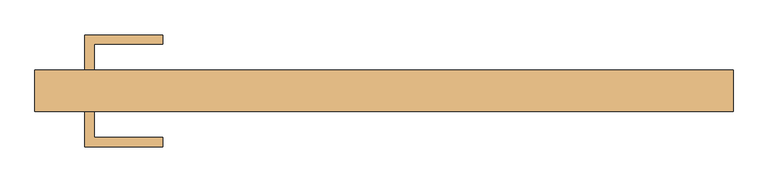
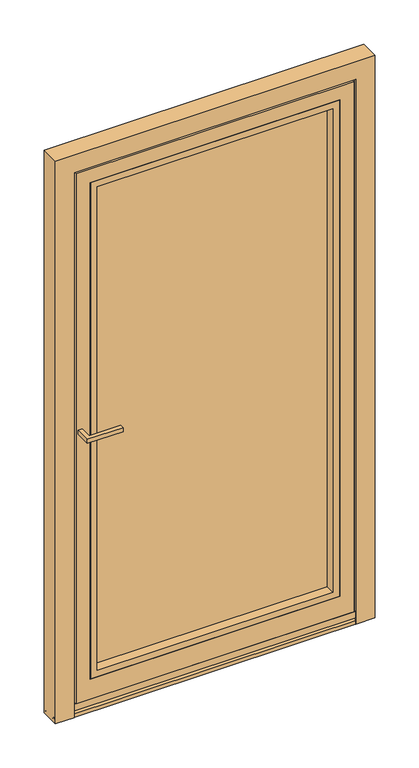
"""IFC4 building model written with IfcOpenShell, lengths in millimetres: door geometry, Reynaers_CS 77_Door_Plinth_Outward Opening_Single Vent : Reynaers_CS 77_Door_Plinth_Outward Opening_Single Vent."""

import ifcopenshell
import ifcopenshell.guid

model = None  # the IFC model being written
_history = None  # IfcOwnerHistory: only IFC2X3 demands one
_inside = {}  # id of a spatial element -> (the spatial element, [elements in it])
_under = {}  # id of a project, library or spatial element -> (it, [spatial elements below it])
_declared = {}  # id of a project -> (the project, [libraries it declares])
_typed = {}  # id of a type object -> (the type object, [elements of that type])
_made_of = {}  # id of a material, layer set ... -> (it, [elements and type objects made of it])


def new_model(schema):
    """Start an empty IFC model of exactly this schema.

    Asked for "IFC4X3", IfcOpenShell would pick the latest addendum, in which some entities
    have other attributes; the version numbers below select the first issue.
    IFC2X3 requires an IfcOwnerHistory on every rooted entity: one is made here for all.
    """
    global model, _history
    if schema == "IFC4X3":
        model = ifcopenshell.file(schema_version=(4, 3, 0, 0))
    else:
        model = ifcopenshell.file(schema=schema)
    _inside.clear()
    _under.clear()
    _declared.clear()
    _typed.clear()
    _made_of.clear()
    _history = None
    if model.schema == "IFC2X3":
        org = make("IfcOrganization", Name="unknown")
        user = make(
            "IfcPersonAndOrganization",
            ThePerson=make("IfcPerson", FamilyName="unknown"),
            TheOrganization=org,
        )
        app = make(
            "IfcApplication",
            ApplicationDeveloper=org,
            Version="unknown",
            ApplicationFullName="unknown",
            ApplicationIdentifier="unknown",
        )
        _history = make(
            "IfcOwnerHistory",
            OwningUser=user,
            OwningApplication=app,
            ChangeAction="ADDED",
            CreationDate=0,
        )
    return model


def make(cls, **values):
    """One entity of the class cls with the attributes given. An attribute that is None is left unset."""
    return model.create_entity(
        cls, **{name: value for name, value in values.items() if value is not None}
    )


def rooted(cls, **values):
    """An entity with a GlobalId (a new one), such as an element, a storey or a relation."""
    return make(cls, GlobalId=ifcopenshell.guid.new(), OwnerHistory=_history, **values)


def si_unit(unit_type, name, prefix=None):
    """IfcSIUnit, for example si_unit("LENGTHUNIT", "METRE", prefix="MILLI")."""
    return make("IfcSIUnit", UnitType=unit_type, Prefix=prefix, Name=name)


def assignment(units):
    """IfcUnitAssignment: the units of a project."""
    return None if units is None else make("IfcUnitAssignment", Units=units)


def point(xyz):
    """IfcCartesianPoint."""
    return None if xyz is None else make("IfcCartesianPoint", Coordinates=xyz)


def direction(xyz):
    """IfcDirection."""
    return None if xyz is None else make("IfcDirection", DirectionRatios=xyz)


def frame(location, z_axis=None, x_axis=None):
    """IfcAxis2Placement3D, a coordinate frame: its origin and axes. An axis left out is left unset."""
    return make(
        "IfcAxis2Placement3D",
        Location=point(location),
        Axis=direction(z_axis),
        RefDirection=direction(x_axis),
    )


def origin():
    """The frame at (0, 0, 0) with its axes left unset."""
    return frame((0.0, 0.0, 0.0))


def place(relative_to, where):
    """IfcLocalPlacement: puts the frame where relative to a parent placement (None: the world)."""
    return make(
        "IfcLocalPlacement", PlacementRelTo=relative_to, RelativePlacement=where
    )


def context(
    kind, dimensions, precision=None, world=None, true_north=None, identifier=None
):
    """IfcGeometricRepresentationContext, for example the 3D "Model" context."""
    return make(
        "IfcGeometricRepresentationContext",
        ContextIdentifier=identifier,
        ContextType=kind,
        CoordinateSpaceDimension=dimensions,
        Precision=precision,
        WorldCoordinateSystem=world,
        TrueNorth=true_north,
    )


def project(units=None, contexts=None):
    """IfcProject with its units and contexts."""
    return rooted(
        "IfcProject",
        Name="project",
        RepresentationContexts=contexts,
        UnitsInContext=assignment(units),
    )


def spatial(cls, under=None, at=None, **own):
    """A site, building, storey or space (cls), placed at a placement, below another one or the project."""
    s = rooted(cls, ObjectPlacement=at, **own)
    if under is not None:
        _under.setdefault(under.id(), (under, []))[1].append(s)
    return s


def polyline(points):
    """IfcPolyline through the points."""
    return make("IfcPolyline", Points=[point(p) for p in points])


def outline(outer, holes=None, kind="AREA"):
    """IfcArbitraryClosedProfileDef: a profile drawn as a closed curve; with holes, ...WithVoids."""
    if holes is None:
        return make("IfcArbitraryClosedProfileDef", ProfileType=kind, OuterCurve=outer)
    return make(
        "IfcArbitraryProfileDefWithVoids",
        ProfileType=kind,
        OuterCurve=outer,
        InnerCurves=holes,
    )


def extrude(swept, where, along, depth):
    """IfcExtrudedAreaSolid: the profile swept, set in the frame where, extruded along a direction by depth."""
    return make(
        "IfcExtrudedAreaSolid",
        SweptArea=swept,
        Position=where,
        ExtrudedDirection=direction(along),
        Depth=depth,
    )


def faces_of(points, faces, orient=None, outer=None):
    """IfcFace entities. A face is a list of loops; a loop is a list of indices into points, from 0.

    orient and outer hold one flag for each loop. By default every Orientation is true, the
    first loop of a face is its IfcFaceOuterBound and the others are IfcFaceBound.
    """
    made = []
    for i, loops in enumerate(faces):
        bounds = []
        for j, loop in enumerate(loops):
            is_outer = j == 0 if outer is None else outer[i][j]
            bounds.append(
                make(
                    "IfcFaceOuterBound" if is_outer else "IfcFaceBound",
                    Bound=make("IfcPolyLoop", Polygon=[points[k] for k in loop]),
                    Orientation=True if orient is None else orient[i][j],
                )
            )
        made.append(make("IfcFace", Bounds=bounds))
    return made


def faceted_brep(points, faces, orient=None, outer=None, voids=None):
    """IfcFacetedBrep: a solid bounded by flat faces; with voids (closed shells), ...WithVoids."""
    shared = [point(p) for p in points]
    hull = make("IfcClosedShell", CfsFaces=faces_of(shared, faces, orient, outer))
    if voids is None:
        return make("IfcFacetedBrep", Outer=hull)
    return make(
        "IfcFacetedBrepWithVoids",
        Outer=hull,
        Voids=[
            make(cls, CfsFaces=faces_of(shared, fs, o, b)) for cls, fs, o, b in voids
        ],
    )


def shape(context_of_items, identifier, shape_type, items):
    """IfcShapeRepresentation: the items that make up one representation, for example the "Body"."""
    return make(
        "IfcShapeRepresentation",
        ContextOfItems=context_of_items,
        RepresentationIdentifier=identifier,
        RepresentationType=shape_type,
        Items=items,
    )


def source(mapping_origin, context_of_items, identifier, shape_type, items):
    """IfcRepresentationMap: a shape defined once, which mapped items show again and again."""
    return make(
        "IfcRepresentationMap",
        MappingOrigin=mapping_origin,
        MappedRepresentation=shape(context_of_items, identifier, shape_type, items),
    )


def transform(
    local_origin,
    x_axis=None,
    y_axis=None,
    z_axis=None,
    scale=None,
    scale2=None,
    scale3=None,
    uniform=True,
):
    """IfcCartesianTransformationOperator3D, or its non-uniform kind. x_axis, y_axis, z_axis: its Axis1, 2, 3."""
    if uniform:
        return make(
            "IfcCartesianTransformationOperator3D",
            Axis1=direction(x_axis),
            Axis2=direction(y_axis),
            LocalOrigin=point(local_origin),
            Scale=scale,
            Axis3=direction(z_axis),
        )
    return make(
        "IfcCartesianTransformationOperator3DnonUniform",
        Axis1=direction(x_axis),
        Axis2=direction(y_axis),
        LocalOrigin=point(local_origin),
        Scale=scale,
        Axis3=direction(z_axis),
        Scale2=scale2,
        Scale3=scale3,
    )


def mapped(mapping_source, mapping_target):
    """IfcMappedItem: shows the shape of a source again, moved by a transform."""
    return make(
        "IfcMappedItem", MappingSource=mapping_source, MappingTarget=mapping_target
    )


def made_of(thing, what):
    """Note that an element or type object is made of a material, layer set ...; save() writes the relation."""
    if what is not None:
        _made_of.setdefault(what.id(), (what, []))[1].append(thing)
    return thing


def element(
    cls,
    number,
    at=None,
    inside=None,
    cuts=None,
    type_object=None,
    material=None,
    context=None,
    identifier="Body",
    shape_type=None,
    held_by="IfcProductDefinitionShape",
    body=None,
    shapes=None,
    **own,
):
    """One element of the class cls, such as IfcWall. Its Tag is "e" and its number.

    at: its placement. inside: the storey or other place that contains it. cuts: it is an
    opening in that element (IfcRelVoidsElement). A single representation is given by context,
    identifier, shape_type and body (its items); several are given by shapes. held_by: the class
    of the entity that holds the representations. save() writes the other relations.
    """
    e = rooted(cls, Tag="e%d" % number, ObjectPlacement=at, **own)
    if body is not None:
        shapes = [shape(context, identifier, shape_type, body)]
    if shapes is not None:
        e.Representation = make(held_by, Representations=shapes)
    if inside is not None:
        _inside.setdefault(inside.id(), (inside, []))[1].append(e)
    if cuts is not None:
        rooted(
            "IfcRelVoidsElement", RelatingBuildingElement=cuts, RelatedOpeningElement=e
        )
    if type_object is not None:
        _typed.setdefault(type_object.id(), (type_object, []))[1].append(e)
    return made_of(e, material)


def aggregate(whole, parts):
    """IfcRelAggregates: a whole, such as a stair, and the parts it consists of."""
    return rooted("IfcRelAggregates", RelatingObject=whole, RelatedObjects=parts)


def save(model, path):
    """Write the relations noted so far, then the file.

    IfcRelAggregates (storeys below a building ...), IfcRelContainedInSpatialStructure (elements
    in a storey), IfcRelDefinesByType, IfcRelAssociatesMaterial and IfcRelDeclares: one each for
    every whole, place, type object, material and project.
    """
    for whole, parts in _under.values():
        aggregate(whole, parts)
    for where, things in _inside.values():
        rooted(
            "IfcRelContainedInSpatialStructure",
            RelatedElements=things,
            RelatingStructure=where,
        )
    for kind, things in _typed.values():
        rooted("IfcRelDefinesByType", RelatedObjects=things, RelatingType=kind)
    for what, things in _made_of.values():
        rooted("IfcRelAssociatesMaterial", RelatedObjects=things, RelatingMaterial=what)
    for by, libraries in _declared.values():
        rooted("IfcRelDeclares", RelatingContext=by, RelatedDefinitions=libraries)
    model.write(path)


def door_9cbeffaa(model_context):
    return source(origin(), model_context, "Body", "SolidModel", [
        extrude(outline(polyline([(-488.5, 80.0), (-488.5, 137.5), (-361.0, 137.5), (-361.0, 122.5), (-473.5, 122.5), (-473.5, 80.0), (-488.5, 80.0)])), frame((0.0, 0.0, 1062.5), z_axis=(0.0, 0.0, 1.0), x_axis=(1.0, 0.0, 0.0)), (0.0, 0.0, 1.0), 15.0),
        extrude(outline(polyline([(-488.5, 12.0), (-473.5, 12.0), (-473.5, -30.5), (-361.0, -30.5), (-361.0, -45.5), (-488.5, -45.5), (-488.5, 12.0)])), frame((0.0, 0.0, 1062.5), z_axis=(0.0, 0.0, 1.0), x_axis=(1.0, 0.0, 0.0)), (0.0, 0.0, 1.0), 15.0),
        faceted_brep([(496.0, 12.0, 49.5), (496.0, 12.0, 2046.0), (-496.0, 12.0, 2046.0), (-496.0, 12.0, 49.5), (-445.0, 12.0, 1995.0), (445.0, 12.0, 1995.0), (445.0, 12.0, 124.5), (-445.0, 12.0, 124.5), (445.0, 72.0, 124.5), (-445.0, 72.0, 124.5), (445.0, 72.0, 1995.0), (-445.0, 72.0, 1995.0), (420.0, 72.0, 1970.0), (420.0, 72.0, 149.5), (-420.0, 72.0, 149.5), (-420.0, 72.0, 1970.0), (420.0, 80.0, 149.5), (-420.0, 80.0, 149.5), (-522.0, 80.0, 2072.0), (522.0, 80.0, 2072.0), (522.0, 80.0, 10.5), (-522.0, 80.0, 10.5), (-420.0, 80.0, 1970.0), (420.0, 80.0, 1970.0), (-522.0, 76.2, 10.5), (522.0, 76.2, 10.5), (-522.0, 76.2, 2072.0), (522.0, 76.2, 2072.0), (-507.0, 76.2, 2057.0), (507.0, 76.2, 2057.0), (507.0, 76.2, 49.5), (-507.0, 76.2, 49.5), (496.0, 21.8, 2046.0), (496.0, 21.8, 49.5), (-496.0, 21.8, 49.5), (-507.0, 21.8, 49.5), (507.0, 21.8, 49.5), (-496.0, 21.8, 2046.0), (507.0, 21.8, 2057.0), (-507.0, 21.8, 2057.0)], [[[0, 1, 2, 3], [4, 5, 6, 7]], [[7, 6, 8, 9]], [[5, 10, 8, 6]], [[10, 11, 9, 8], [12, 13, 14, 15]], [[9, 11, 4, 7]], [[16, 17, 14, 13]], [[18, 19, 20, 21], [22, 17, 16, 23]], [[22, 15, 14, 17]], [[12, 23, 16, 13]], [[24, 21, 20, 25]], [[21, 24, 26, 18]], [[25, 20, 19, 27]], [[24, 25, 27, 26], [28, 29, 30, 31]], [[32, 1, 0, 33]], [[33, 0, 3, 34, 35, 31, 30, 36]], [[37, 32, 33, 36, 38, 39, 35, 34]], [[2, 37, 34, 3]], [[29, 38, 36, 30]], [[39, 28, 31, 35]], [[4, 11, 10, 5]], [[37, 2, 1, 32]], [[39, 38, 29, 28]], [[18, 26, 27, 19]], [[15, 22, 23, 12]]]),
        extrude(outline(polyline([(125.5, -444.0), (125.5, 444.0), (1994.0, 444.0), (1994.0, -444.0), (125.5, -444.0)]), holes=[polyline([(149.5, 420.0), (149.5, -420.0), (1970.0, -420.0), (1970.0, 420.0), (149.5, 420.0)])]), frame((0.0, 12.0, 0.0), z_axis=(0.0, 1.0, 0.0), x_axis=(0.0, 0.0, 1.0)), (0.0, 0.0, 1.0), 33.0),
        extrude(outline(polyline([(439.0, 48.0), (-439.0, 48.0), (-439.0, 72.0), (439.0, 72.0), (439.0, 48.0)])), frame((0.0, 0.0, 130.5), z_axis=(0.0, 0.0, 1.0), x_axis=(1.0, 0.0, 0.0)), (0.0, 0.0, 1.0), 1858.5),
        faceted_brep([(-528.0, 70.2, 0.0), (-517.0, 70.2, 0.0), (-517.0, 15.8, 0.0), (-502.0, 15.8, 0.0), (-502.0, 12.0, 0.0), (-570.0, 12.0, 0.0), (-570.0, 80.0, 0.0), (-528.0, 80.0, 0.0), (-528.0, 70.2, 2078.0), (528.0, 70.2, 2078.0), (528.0, 70.2, 0.0), (517.0, 70.2, 0.0), (517.0, 70.2, 2067.0), (-517.0, 70.2, 2067.0), (-517.0, 15.8, 2067.0), (517.0, 15.8, 2067.0), (517.0, 15.8, 0.0), (502.0, 15.8, 0.0), (502.0, 15.8, 2052.0), (-502.0, 15.8, 2052.0), (-502.0, 12.0, 2052.0), (502.0, 12.0, 2052.0), (502.0, 12.0, 0.0), (570.0, 12.0, 0.0), (570.0, 12.0, 2120.0), (-570.0, 12.0, 2120.0), (-570.0, 80.0, 2120.0), (570.0, 80.0, 2120.0), (570.0, 80.0, 0.0), (528.0, 80.0, 0.0), (528.0, 80.0, 2078.0), (-528.0, 80.0, 2078.0)], [[[0, 1, 2, 3, 4, 5, 6, 7]], [[1, 0, 8, 9, 10, 11, 12, 13]], [[2, 1, 13, 14]], [[3, 2, 14, 15, 16, 17, 18, 19]], [[4, 3, 19, 20]], [[5, 4, 20, 21, 22, 23, 24, 25]], [[6, 5, 25, 26]], [[7, 6, 26, 27, 28, 29, 30, 31]], [[0, 7, 31, 8]], [[9, 30, 29, 10]], [[10, 29, 28, 23, 22, 17, 16, 11]], [[15, 12, 11, 16]], [[27, 24, 23, 28]], [[21, 18, 17, 22]], [[26, 25, 24, 27]], [[8, 31, 30, 9]], [[14, 13, 12, 15]], [[20, 19, 18, 21]]]),
        extrude(outline(polyline([(80.0, 2.3), (80.0, 1.0), (12.0, 1.0), (12.0, 13.958506), (19.7581947, 19.3908525), (25.9598563, 12.0), (69.5999995, 12.0), (69.5999995, 14.0), (71.1999995, 14.0), (71.1999995, 3.0699002), (80.0, 2.3)])), frame((-570.0, 0.0, 0.0), z_axis=(1.0, 0.0, 0.0), x_axis=(0.0, 1.0, 0.0)), (0.0, 0.0, 1.0), 1140.0),
        faceted_brep([(522.0, 23.8935884, 24.4582746), (522.0, 23.8935884, 20.8721712), (522.0, 32.4, 20.8721712), (522.0, 32.4, 24.4582746), (-522.0, 32.4, 27.7), (-522.0, 32.4, 20.8721712), (-522.0, 23.8935884, 20.8721712), (-522.0, 23.8935884, 24.4582746), (-522.0, 12.0, 24.4582746), (-522.0, 12.0, 24.7), (-522.0, 31.3472155, 24.7), (-522.0, 31.3472155, 27.7), (502.0, 12.0, 24.4582746), (502.0, 12.0, 49.5), (-502.0, 12.0, 49.5), (-502.0, 12.0, 24.7), (502.0, 23.8935884, 24.4582746), (502.0, 32.4, 27.7), (502.0, 32.4, 24.4582746), (-502.0, 31.3472155, 27.7), (-502.0, 15.8, 27.7), (502.0, 15.8, 27.7), (-502.0, 15.8, 49.5), (502.0, 15.8, 49.5), (-502.0, 31.3472155, 24.7)], [[[0, 1, 2, 3]], [[4, 5, 6, 7, 8, 9, 10, 11]], [[9, 8, 12, 13, 14, 15]], [[8, 7, 16, 12]], [[1, 0, 16, 7, 6]], [[2, 1, 6, 5]], [[5, 4, 17, 18, 3, 2]], [[4, 11, 19, 20, 21, 17]], [[20, 22, 23, 21]], [[22, 14, 13, 23]], [[10, 24, 19, 11]], [[24, 10, 9, 15]], [[19, 24, 15, 14, 22, 20]], [[18, 16, 0, 3]], [[16, 18, 17, 21, 23, 13, 12]]]),
    ])


if __name__ == "__main__":
    model = new_model("IFC4")
    model_context = context("Model", 3, world=origin())
    ifc_project = project(units=[si_unit("LENGTHUNIT", "METRE", prefix="MILLI")], contexts=[model_context])
    site = spatial("IfcSite", under=ifc_project)
    building = spatial("IfcBuilding", under=site)
    placement = place(None, origin())
    door_shape = door_9cbeffaa(model_context)
    element("IfcDoor", 1, ObjectType="Reynaers_CS 77_Door_Plinth_Outward Opening_Single Vent : Reynaers_CS 77_Door_Plinth_Outward Opening_Single Vent", at=placement, inside=building, context=model_context, shape_type="MappedRepresentation", body=[
        mapped(door_shape, transform((0.0, 0.0, 0.0), x_axis=(1.0, 0.0, 0.0), y_axis=(0.0, 1.0, 0.0), z_axis=(0.0, 0.0, 1.0))),
    ])
    save(model, "model.ifc")
